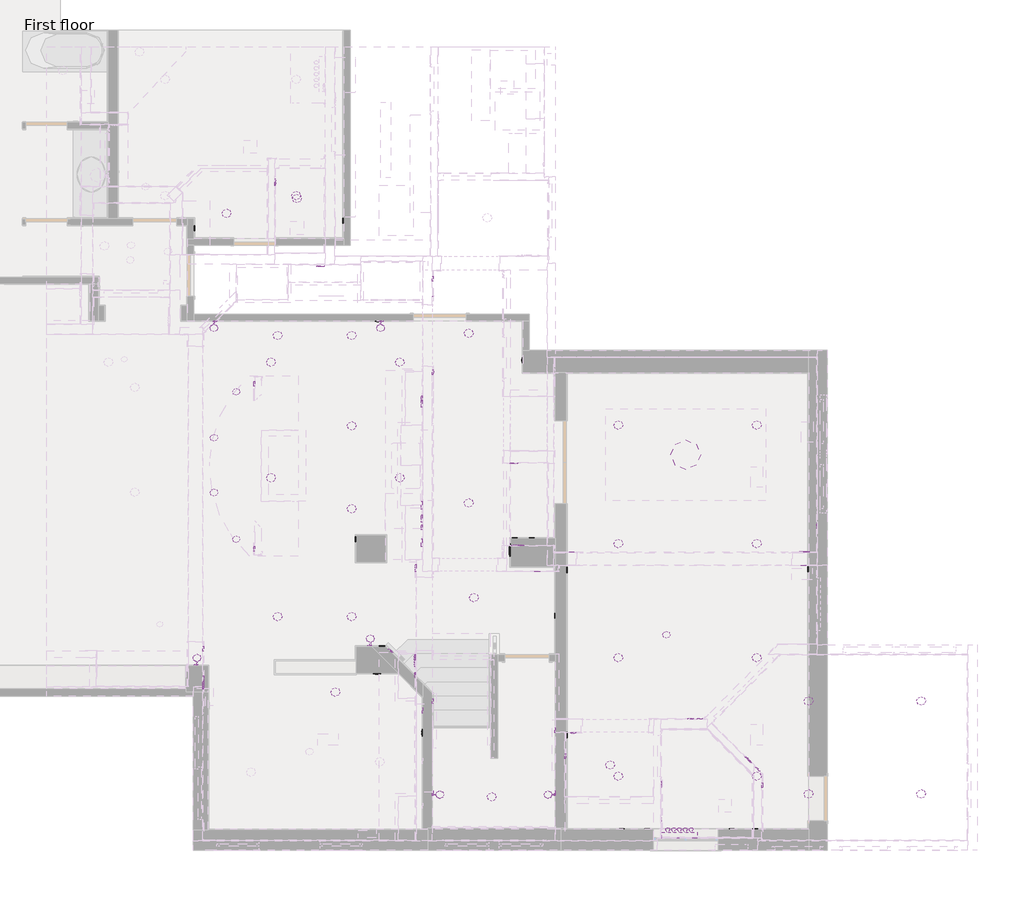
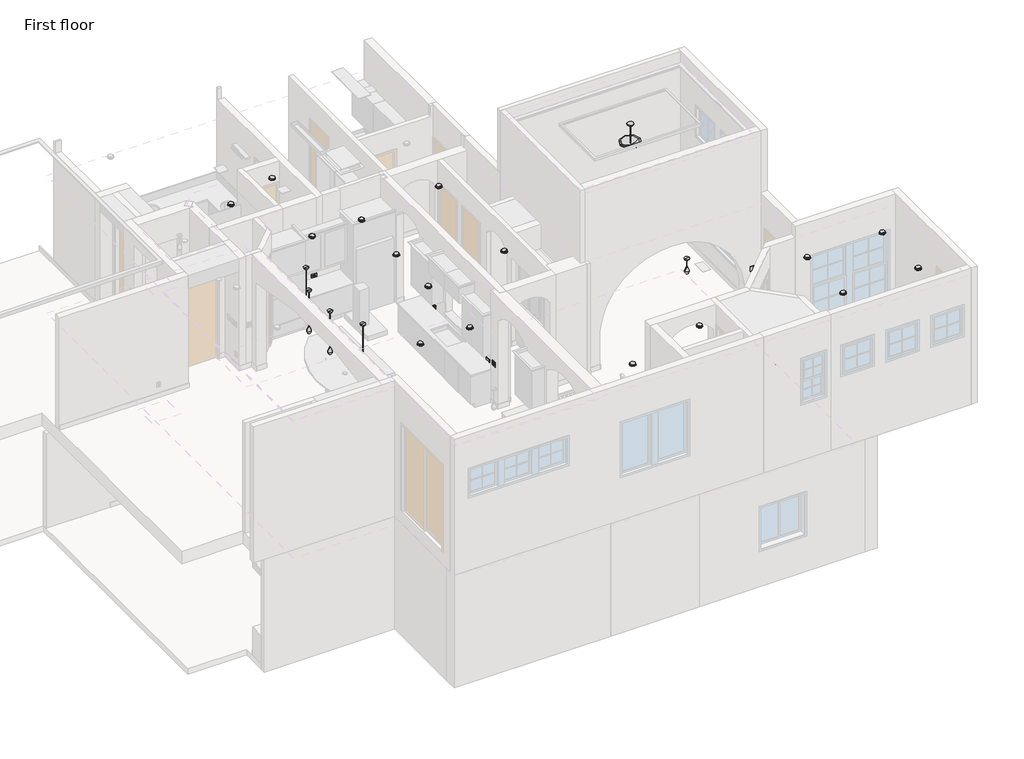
# One storey, part 13 of 14: 66 proxies, 44 light fixtures.
"""IFC4 building model written with IfcOpenShell, lengths in millimetres."""

from ifc_helpers import new_model, si_unit, origin, place, context, project, spatial, transform, mapped, element, save
from components import switch_1_switch_1_61bf59a5, switch_1_switch_1_a93bcbcb, switch_15_switch_15_8019c705, switch_15_switch_15_03a114fa, switch_18_switch_18_b948fae5, switch_18_switch_18_ac0df519, switch_22_switch_22_d8a24c8f, switch_3_switch_3_40792009, switch_4_switch_4_f86bb9e3, switch_6_switch_6_ad3d04ee, light_11_b50595c3, light_11_2a75b1a4, light_8_5fd1197a, lighting_fixtures_pendant_1_light_4_38b3ee5c, lighting_fixtures_pendant_lamp_art_glass_led_light_7_c276613a, lighting_fixtures_pendant_lamp_art_glass_led_light_9_3a7919a2, m_recessed_lamp_round_led_light_2_4ee42974

model = new_model("IFC4")

# Units and contexts
model_context = context("Model", 3, world=origin())
ifc_project = project(units=[si_unit("LENGTHUNIT", "METRE", prefix="MILLI")], contexts=[model_context])

# Site, building, storey
site = spatial("IfcSite", under=ifc_project)
building = spatial("IfcBuilding", under=site)
storey = spatial("IfcBuildingStorey", under=building, Name="First floor", Elevation=0.0)

# Proxies
placement = place(None, origin())
switch_1_switch_1_shape = switch_1_switch_1_61bf59a5(model_context)
element("IfcBuildingElementProxy", 1, Name="Switch 1 : Switch 1", ObjectType="Switch 1 : Switch 1", at=placement, inside=storey, context=model_context, shape_type="MappedRepresentation", body=[
    mapped(switch_1_switch_1_shape, transform((10553.7, 4815.087, 292.1), x_axis=(0.0, 1.0, 0.0), y_axis=(-1.0, 0.0, 0.0), z_axis=(0.0, 0.0, 1.0))),
])
element("IfcBuildingElementProxy", 2, Name="Switch 1 : Switch 1", ObjectType="Switch 1 : Switch 1", at=placement, inside=storey, context=model_context, shape_type="MappedRepresentation", body=[
    mapped(switch_1_switch_1_shape, transform((9228.337, 355.6, 292.1), x_axis=(1.0, 0.0, 0.0), y_axis=(0.0, 1.0, 0.0), z_axis=(0.0, 0.0, 1.0))),
])
element("IfcBuildingElementProxy", 3, Name="Switch 1 : Switch 1", ObjectType="Switch 1 : Switch 1", at=placement, inside=storey, context=model_context, shape_type="MappedRepresentation", body=[
    mapped(switch_1_switch_1_shape, transform((7786.887, 355.6, 292.1), x_axis=(1.0, 0.0, 0.0), y_axis=(0.0, 1.0, 0.0), z_axis=(0.0, 0.0, 1.0))),
])
element("IfcBuildingElementProxy", 4, Name="Switch 1 : Switch 1", ObjectType="Switch 1 : Switch 1", at=placement, inside=storey, context=model_context, shape_type="MappedRepresentation", body=[
    mapped(switch_1_switch_1_shape, transform((6400.8, 4811.513, 1079.5), x_axis=(0.0, -1.0, 0.0), y_axis=(1.0, 0.0, 0.0), z_axis=(0.0, 0.0, 1.0))),
])
element("IfcBuildingElementProxy", 5, Name="Switch 1 : Switch 1", ObjectType="Switch 1 : Switch 1", at=placement, inside=storey, context=model_context, shape_type="MappedRepresentation", body=[
    mapped(switch_1_switch_1_shape, transform((4102.1, 9802.5077939, 3556.0), x_axis=(0.0, -1.0, 0.0), y_axis=(1.0, 0.0, 0.0), z_axis=(0.0, 0.0, 1.0))),
])
element("IfcBuildingElementProxy", 6, Name="Switch 1 : Switch 1", ObjectType="Switch 1 : Switch 1", at=placement, inside=storey, context=model_context, shape_type="MappedRepresentation", body=[
    mapped(switch_1_switch_1_shape, transform((12.7, 10672.563, 228.6), x_axis=(0.0, -1.0, 0.0), y_axis=(1.0, 0.0, 0.0), z_axis=(0.0, 0.0, 1.0))),
])
element("IfcBuildingElementProxy", 7, Name="Switch 1 : Switch 1", ObjectType="Switch 1 : Switch 1", at=placement, inside=storey, context=model_context, shape_type="MappedRepresentation", body=[
    mapped(switch_1_switch_1_shape, transform((2215.826341, 3035.3176057, 292.1), x_axis=(-1.0, 0.0, 0.0), y_axis=(0.0, -1.0, 0.0), z_axis=(0.0, 0.0, 1.0))),
])
element("IfcBuildingElementProxy", 8, Name="Switch 1 : Switch 1", ObjectType="Switch 1 : Switch 1", at=placement, inside=storey, context=model_context, shape_type="MappedRepresentation", body=[
    mapped(switch_1_switch_1_shape, transform((3936.9996704, 2390.8506704, 1384.3), x_axis=(0.0, 1.0, 0.0), y_axis=(-1.0, 0.0, 0.0), z_axis=(0.0, 0.0, 1.0))),
])
element("IfcBuildingElementProxy", 9, Name="Switch 1 : Switch 1", ObjectType="Switch 1 : Switch 1", at=placement, inside=storey, context=model_context, shape_type="MappedRepresentation", body=[
    mapped(switch_1_switch_1_shape, transform((4102.0996704, 2557.2633296, 1219.2), x_axis=(0.0, -1.0, 0.0), y_axis=(1.0, 0.0, 0.0), z_axis=(0.0, 0.0, 1.0))),
])
element("IfcBuildingElementProxy", 10, Name="Switch 1 : Switch 1", ObjectType="Switch 1 : Switch 1", at=placement, inside=storey, context=model_context, shape_type="MappedRepresentation", body=[
    mapped(switch_1_switch_1_shape, transform((4102.0996704, 982.463, 1879.6), x_axis=(0.0, -1.0, 0.0), y_axis=(1.0, 0.0, 0.0), z_axis=(0.0, 0.0, 1.0))),
])
element("IfcBuildingElementProxy", 11, Name="Switch 1 : Switch 1", ObjectType="Switch 1 : Switch 1", at=placement, inside=storey, context=model_context, shape_type="MappedRepresentation", body=[
    mapped(switch_1_switch_1_shape, transform((6210.3, 973.337, 1879.6), x_axis=(0.0, 1.0, 0.0), y_axis=(-1.0, 0.0, 0.0), z_axis=(0.0, 0.0, 1.0))),
])
element("IfcBuildingElementProxy", 12, Name="Switch 1 : Switch 1", ObjectType="Switch 1 : Switch 1", at=placement, inside=storey, context=model_context, shape_type="MappedRepresentation", body=[
    mapped(switch_1_switch_1_shape, transform((6210.3, 2052.837, 2501.9), x_axis=(0.0, 1.0, 0.0), y_axis=(-1.0, 0.0, 0.0), z_axis=(0.0, 0.0, 1.0))),
])
element("IfcBuildingElementProxy", 13, Name="Switch 1 : Switch 1", ObjectType="Switch 1 : Switch 1", at=placement, inside=storey, context=model_context, shape_type="MappedRepresentation", body=[
    mapped(switch_1_switch_1_shape, transform((10475.713, 4889.5001027, 4559.3), x_axis=(-1.0, 0.0, 0.0), y_axis=(0.0, -1.0, 0.0), z_axis=(0.0, 0.0, 1.0))),
])
element("IfcBuildingElementProxy", 14, Name="Switch 1 : Switch 1", ObjectType="Switch 1 : Switch 1", at=placement, inside=storey, context=model_context, shape_type="MappedRepresentation", body=[
    mapped(switch_1_switch_1_shape, transform((8682.0728755, 2247.9, 3543.3), x_axis=(1.0, 0.0, 0.0), y_axis=(0.0, 1.0, 0.0), z_axis=(0.0, 0.0, 1.0))),
])
element("IfcBuildingElementProxy", 15, Name="Switch 1 : Switch 1", ObjectType="Switch 1 : Switch 1", at=placement, inside=storey, context=model_context, shape_type="MappedRepresentation", body=[
    mapped(switch_1_switch_1_shape, transform((9674.0412947, 1387.6587053, 4330.7), x_axis=(0.7071067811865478, -0.7071067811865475, 0.0), y_axis=(0.7071067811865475, 0.7071067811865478, 0.0), z_axis=(0.0, 0.0, 1.0))),
])
element("IfcBuildingElementProxy", 16, Name="Switch 1 : Switch 1", ObjectType="Switch 1 : Switch 1", at=placement, inside=storey, context=model_context, shape_type="MappedRepresentation", body=[
    mapped(switch_1_switch_1_shape, transform((9494.4361723, 1567.2638277, 4686.3), x_axis=(0.707106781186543, -0.707106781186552, 0.0), y_axis=(0.707106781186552, 0.707106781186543, 0.0), z_axis=(0.0, 0.0, 1.0))),
])
element("IfcBuildingElementProxy", 17, Name="Switch 1 : Switch 1", ObjectType="Switch 1 : Switch 1", at=placement, inside=storey, context=model_context, shape_type="MappedRepresentation", body=[
    mapped(switch_1_switch_1_shape, transform((165.1, 3458.963, 3543.3), x_axis=(0.0, -1.0, 0.0), y_axis=(1.0, 0.0, 0.0), z_axis=(0.0, 0.0, 1.0))),
])
element("IfcBuildingElementProxy", 18, Name="Switch 1 : Switch 1", ObjectType="Switch 1 : Switch 1", at=placement, inside=storey, context=model_context, shape_type="MappedRepresentation", body=[
    mapped(switch_1_switch_1_shape, transform((165.1, 3458.963, 4508.5), x_axis=(0.0, -1.0, 0.0), y_axis=(1.0, 0.0, 0.0), z_axis=(0.0, 0.0, 1.0))),
])
element("IfcBuildingElementProxy", 19, Name="Switch 1 : Switch 1", ObjectType="Switch 1 : Switch 1", at=placement, inside=storey, context=model_context, shape_type="MappedRepresentation", body=[
    mapped(switch_1_switch_1_shape, transform((165.1, 2811.263, 4508.5), x_axis=(0.0, -1.0, 0.0), y_axis=(1.0, 0.0, 0.0), z_axis=(0.0, 0.0, 1.0))),
])
switch_1_switch_1_2_shape = switch_1_switch_1_a93bcbcb(model_context)
element("IfcBuildingElementProxy", 20, Name="Switch 1 : Switch 1", ObjectType="Switch 1 : Switch 1", at=placement, inside=storey, context=model_context, shape_type="MappedRepresentation", body=[
    mapped(switch_1_switch_1_2_shape, transform((3924.3, 5240.4317939, 4165.6), x_axis=(0.0, 1.0, 0.0), y_axis=(-1.0, 0.0, 0.0), z_axis=(0.0, 0.0, 1.0))),
])
element("IfcBuildingElementProxy", 21, Name="Switch 1 : Switch 1", ObjectType="Switch 1 : Switch 1", at=placement, inside=storey, context=model_context, shape_type="MappedRepresentation", body=[
    mapped(switch_1_switch_1_2_shape, transform((3924.3, 5888.1317939, 4165.6), x_axis=(0.0, 1.0, 0.0), y_axis=(-1.0, 0.0, 0.0), z_axis=(0.0, 0.0, 1.0))),
])
switch_15_switch_15_shape = switch_15_switch_15_8019c705(model_context)
element("IfcBuildingElementProxy", 22, Name="Switch 15 : Switch 15", ObjectType="Switch 15 : Switch 15", at=placement, inside=storey, context=model_context, shape_type="MappedRepresentation", body=[
    mapped(switch_15_switch_15_shape, transform((1511.409341, 3035.3, 927.1), x_axis=(-1.0, 0.0, 0.0), y_axis=(0.0, -1.0, 0.0), z_axis=(0.0, 0.0, 1.0))),
])
element("IfcBuildingElementProxy", 23, Name="Switch 15 : Switch 15", ObjectType="Switch 15 : Switch 15", at=placement, inside=storey, context=model_context, shape_type="MappedRepresentation", body=[
    mapped(switch_15_switch_15_shape, transform((3149.6848037, 3035.2955477, 939.8), x_axis=(-1.0, 0.0, 0.0), y_axis=(0.0, -1.0, 0.0), z_axis=(0.0, 0.0, 1.0))),
])
element("IfcBuildingElementProxy", 24, Name="Switch 15 : Switch 15", ObjectType="Switch 15 : Switch 15", at=placement, inside=storey, context=model_context, shape_type="MappedRepresentation", body=[
    mapped(switch_15_switch_15_shape, transform((3936.9996704, 2015.7676704, 939.8), x_axis=(0.0, 1.0, 0.0), y_axis=(-1.0, 0.0, 0.0), z_axis=(0.0, 0.0, 1.0))),
])
element("IfcBuildingElementProxy", 25, Name="Switch 15 : Switch 15", ObjectType="Switch 15 : Switch 15", at=placement, inside=storey, context=model_context, shape_type="MappedRepresentation", body=[
    mapped(switch_15_switch_15_shape, transform((3924.3, 5690.8487939, 4165.6), x_axis=(0.0, 1.0, 0.0), y_axis=(-1.0, 0.0, 0.0), z_axis=(0.0, 0.0, 1.0))),
])
element("IfcBuildingElementProxy", 26, Name="Switch 15 : Switch 15", ObjectType="Switch 15 : Switch 15", at=placement, inside=storey, context=model_context, shape_type="MappedRepresentation", body=[
    mapped(switch_15_switch_15_shape, transform((5497.7459991, 6641.9947939, 4141.011555), x_axis=(-1.0, 0.0, 0.0), y_axis=(0.0, -1.0, 0.0), z_axis=(0.0, 0.0, 1.0))),
])
element("IfcBuildingElementProxy", 27, Name="Switch 15 : Switch 15", ObjectType="Switch 15 : Switch 15", at=placement, inside=storey, context=model_context, shape_type="MappedRepresentation", body=[
    mapped(switch_15_switch_15_shape, transform((2183.046, 10020.3, 4178.3), x_axis=(-1.0, 0.0, 0.0), y_axis=(0.0, -1.0, 0.0), z_axis=(0.0, 0.0, 1.0))),
])
switch_15_switch_15_2_shape = switch_15_switch_15_03a114fa(model_context)
element("IfcBuildingElementProxy", 28, Name="Switch 15 : Switch 15", ObjectType="Switch 15 : Switch 15", at=placement, inside=storey, context=model_context, shape_type="MappedRepresentation", body=[
    mapped(switch_15_switch_15_2_shape, transform((3924.3, 7656.6407939, 4165.6), x_axis=(0.0, -1.0, 0.0), y_axis=(1.0, 0.0, 0.0), z_axis=(0.0, 0.0, 1.0))),
])
switch_18_switch_18_shape = switch_18_switch_18_b948fae5(model_context)
element("IfcBuildingElementProxy", 29, Name="Switch 18 : Switch 18", ObjectType="Switch 18 : Switch 18", at=placement, inside=storey, context=model_context, shape_type="MappedRepresentation", body=[
    mapped(switch_18_switch_18_shape, transform((3810.0, 3013.2977736, 4330.7), x_axis=(0.0, 1.0, 0.0), y_axis=(-1.0, 0.0, 0.0), z_axis=(0.0, 0.0, 1.0))),
])
element("IfcBuildingElementProxy", 30, Name="Switch 18 : Switch 18", ObjectType="Switch 18 : Switch 18", at=placement, inside=storey, context=model_context, shape_type="MappedRepresentation", body=[
    mapped(switch_18_switch_18_shape, transform((3924.3, 5540.5977736, 4330.7), x_axis=(0.0, 1.0, 0.0), y_axis=(-1.0, 0.0, 0.0), z_axis=(0.0, 0.0, 1.0))),
])
switch_18_switch_18_2_shape = switch_18_switch_18_ac0df519(model_context)
element("IfcBuildingElementProxy", 31, Name="Switch 18 : Switch 18", ObjectType="Switch 18 : Switch 18", at=placement, inside=storey, context=model_context, shape_type="MappedRepresentation", body=[
    mapped(switch_18_switch_18_2_shape, transform((3924.3, 7743.3918142, 4330.7), x_axis=(0.0, -1.0, 0.0), y_axis=(1.0, 0.0, 0.0), z_axis=(0.0, 0.0, 1.0))),
])
switch_22_switch_22_shape = switch_22_switch_22_d8a24c8f(model_context)
element("IfcBuildingElementProxy", 32, Name="Switch 22 : Switch 22", ObjectType="Switch 22 : Switch 22", at=placement, inside=storey, context=model_context, shape_type="MappedRepresentation", body=[
    mapped(switch_22_switch_22_shape, transform((5441.95, 5132.632358, 1054.1), x_axis=(0.0, 1.0, 0.0), y_axis=(-1.0, 0.0, 0.0), z_axis=(0.0, 0.0, 1.0))),
])
element("IfcBuildingElementProxy", 33, Name="Switch 22 : Switch 22", ObjectType="Switch 22 : Switch 22", at=placement, inside=storey, context=model_context, shape_type="MappedRepresentation", body=[
    mapped(switch_22_switch_22_shape, transform((10453.932358, 5105.4001027, 4305.3), x_axis=(1.0, 0.0, 0.0), y_axis=(0.0, 1.0, 0.0), z_axis=(0.0, 0.0, 1.0))),
])
element("IfcBuildingElementProxy", 34, Name="Switch 22 : Switch 22", ObjectType="Switch 22 : Switch 22", at=placement, inside=storey, context=model_context, shape_type="MappedRepresentation", body=[
    mapped(switch_22_switch_22_shape, transform((5551.732357, 5219.5947939, 4254.5), x_axis=(1.0, 0.0, 0.0), y_axis=(0.0, 1.0, 0.0), z_axis=(0.0, 0.0, 1.0))),
])
element("IfcBuildingElementProxy", 35, Name="Switch 22 : Switch 22", ObjectType="Switch 22 : Switch 22", at=placement, inside=storey, context=model_context, shape_type="MappedRepresentation", body=[
    mapped(switch_22_switch_22_shape, transform((3810.0, 3240.2271518, 4330.7), x_axis=(0.0, 1.0, 0.0), y_axis=(-1.0, 0.0, 0.0), z_axis=(0.0, 0.0, 1.0))),
])
element("IfcBuildingElementProxy", 36, Name="Switch 22 : Switch 22", ObjectType="Switch 22 : Switch 22", at=placement, inside=storey, context=model_context, shape_type="MappedRepresentation", body=[
    mapped(switch_22_switch_22_shape, transform((165.1, 2900.117642, 4241.8), x_axis=(0.0, -1.0, 0.0), y_axis=(1.0, 0.0, 0.0), z_axis=(0.0, 0.0, 1.0))),
])
switch_3_switch_3_shape = switch_3_switch_3_40792009(model_context)
element("IfcBuildingElementProxy", 37, Name="Switch 3 : Switch 3", ObjectType="Switch 3 : Switch 3", at=placement, inside=storey, context=model_context, shape_type="MappedRepresentation", body=[
    mapped(switch_3_switch_3_shape, transform((3381.0797593, 3413.4202407, 1320.8), x_axis=(0.7071067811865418, -0.7071067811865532, 0.0), y_axis=(0.7071067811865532, 0.7071067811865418, 0.0), z_axis=(0.0, 0.0, 1.0))),
])
element("IfcBuildingElementProxy", 38, Name="Switch 3 : Switch 3", ObjectType="Switch 3 : Switch 3", at=placement, inside=storey, context=model_context, shape_type="MappedRepresentation", body=[
    mapped(switch_3_switch_3_shape, transform((6511.2228308, 2019.3, 4356.1), x_axis=(-1.0, 0.0, 0.0), y_axis=(0.0, -1.0, 0.0), z_axis=(0.0, 0.0, 1.0))),
])
element("IfcBuildingElementProxy", 39, Name="Switch 3 : Switch 3", ObjectType="Switch 3 : Switch 3", at=placement, inside=storey, context=model_context, shape_type="MappedRepresentation", body=[
    mapped(switch_3_switch_3_shape, transform((4102.1, 8193.8676247, 4318.0), x_axis=(0.0, -1.0, 0.0), y_axis=(1.0, 0.0, 0.0), z_axis=(0.0, 0.0, 1.0))),
])
switch_4_switch_4_shape = switch_4_switch_4_f86bb9e3(model_context)
element("IfcBuildingElementProxy", 40, Name="Switch 4 : Switch 4", ObjectType="Switch 4 : Switch 4", at=placement, inside=storey, context=model_context, shape_type="MappedRepresentation", body=[
    mapped(switch_4_switch_4_shape, transform((9642.8029797, 355.6, 292.1006729), x_axis=(1.0, 0.0, 0.0), y_axis=(0.0, 1.0, 0.0), z_axis=(0.0, 0.0, 1.0))),
])
element("IfcBuildingElementProxy", 41, Name="Switch 4 : Switch 4", ObjectType="Switch 4 : Switch 4", at=placement, inside=storey, context=model_context, shape_type="MappedRepresentation", body=[
    mapped(switch_4_switch_4_shape, transform((7350.4529797, 355.6, 292.1006729), x_axis=(1.0, 0.0, 0.0), y_axis=(0.0, 1.0, 0.0), z_axis=(0.0, 0.0, 1.0))),
])
element("IfcBuildingElementProxy", 42, Name="Switch 4 : Switch 4", ObjectType="Switch 4 : Switch 4", at=placement, inside=storey, context=model_context, shape_type="MappedRepresentation", body=[
    mapped(switch_4_switch_4_shape, transform((6400.8, 1971.3470203, 292.1006729), x_axis=(0.0, -1.0, 0.0), y_axis=(1.0, 0.0, 0.0), z_axis=(0.0, 0.0, 1.0))),
])
element("IfcBuildingElementProxy", 43, Name="Switch 4 : Switch 4", ObjectType="Switch 4 : Switch 4", at=placement, inside=storey, context=model_context, shape_type="MappedRepresentation", body=[
    mapped(switch_4_switch_4_shape, transform((5651.5, 8404.5529797, 292.1006729), x_axis=(0.0, 1.0, 0.0), y_axis=(-1.0, 0.0, 0.0), z_axis=(0.0, 0.0, 1.0))),
])
element("IfcBuildingElementProxy", 44, Name="Switch 4 : Switch 4", ObjectType="Switch 4 : Switch 4", at=placement, inside=storey, context=model_context, shape_type="MappedRepresentation", body=[
    mapped(switch_4_switch_4_shape, transform((5807.4029797, 5346.7, 292.1006729), x_axis=(1.0, 0.0, 0.0), y_axis=(0.0, 1.0, 0.0), z_axis=(0.0, 0.0, 1.0))),
])
element("IfcBuildingElementProxy", 45, Name="Switch 4 : Switch 4", ObjectType="Switch 4 : Switch 4", at=placement, inside=storey, context=model_context, shape_type="MappedRepresentation", body=[
    mapped(switch_4_switch_4_shape, transform((5515.3029797, 5346.7, 292.1006729), x_axis=(1.0, 0.0, 0.0), y_axis=(0.0, 1.0, 0.0), z_axis=(0.0, 0.0, 1.0))),
])
element("IfcBuildingElementProxy", 46, Name="Switch 4 : Switch 4", ObjectType="Switch 4 : Switch 4", at=placement, inside=storey, context=model_context, shape_type="MappedRepresentation", body=[
    mapped(switch_4_switch_4_shape, transform((6210.3, 4023.0529797, 292.1006729), x_axis=(0.0, 1.0, 0.0), y_axis=(-1.0, 0.0, 0.0), z_axis=(0.0, 0.0, 1.0))),
])
element("IfcBuildingElementProxy", 47, Name="Switch 4 : Switch 4", ObjectType="Switch 4 : Switch 4", at=placement, inside=storey, context=model_context, shape_type="MappedRepresentation", body=[
    mapped(switch_4_switch_4_shape, transform((3158.7970203, 9080.5, 292.1006729), x_axis=(-1.0, 0.0, 0.0), y_axis=(0.0, -1.0, 0.0), z_axis=(0.0, 0.0, 1.0))),
])
element("IfcBuildingElementProxy", 48, Name="Switch 4 : Switch 4", ObjectType="Switch 4 : Switch 4", at=placement, inside=storey, context=model_context, shape_type="MappedRepresentation", body=[
    mapped(switch_4_switch_4_shape, transform((2794.0, 5337.5029797, 292.1006729), x_axis=(0.0, 1.0, 0.0), y_axis=(-1.0, 0.0, 0.0), z_axis=(0.0, 0.0, 1.0))),
])
element("IfcBuildingElementProxy", 49, Name="Switch 4 : Switch 4", ObjectType="Switch 4 : Switch 4", at=placement, inside=storey, context=model_context, shape_type="MappedRepresentation", body=[
    mapped(switch_4_switch_4_shape, transform((2151.2493205, 3238.5176057, 292.1006729), x_axis=(1.0, 0.0, 0.0), y_axis=(0.0, 1.0, 0.0), z_axis=(0.0, 0.0, 1.0))),
])
element("IfcBuildingElementProxy", 50, Name="Switch 4 : Switch 4", ObjectType="Switch 4 : Switch 4", at=placement, inside=storey, context=model_context, shape_type="MappedRepresentation", body=[
    mapped(switch_4_switch_4_shape, transform((4102.1, 9451.5418142, 3556.0), x_axis=(0.0, -1.0, 0.0), y_axis=(1.0, 0.0, 0.0), z_axis=(0.0, 0.0, 1.0))),
])
element("IfcBuildingElementProxy", 51, Name="Switch 4 : Switch 4", ObjectType="Switch 4 : Switch 4", at=placement, inside=storey, context=model_context, shape_type="MappedRepresentation", body=[
    mapped(switch_4_switch_4_shape, transform((2578.1, 10798.5029797, 292.1), x_axis=(0.0, 1.0, 0.0), y_axis=(-1.0, 0.0, 0.0), z_axis=(0.0, 0.0, 1.0))),
])
element("IfcBuildingElementProxy", 52, Name="Switch 4 : Switch 4", ObjectType="Switch 4 : Switch 4", at=placement, inside=storey, context=model_context, shape_type="MappedRepresentation", body=[
    mapped(switch_4_switch_4_shape, transform((3242.0089894, 3492.4962564, 292.1), x_axis=(1.0, 0.0, 0.0), y_axis=(0.0, 1.0, 0.0), z_axis=(0.0, 0.0, 1.0))),
])
element("IfcBuildingElementProxy", 53, Name="Switch 4 : Switch 4", ObjectType="Switch 4 : Switch 4", at=placement, inside=storey, context=model_context, shape_type="MappedRepresentation", body=[
    mapped(switch_4_switch_4_shape, transform((10706.1, 5566.1030824, 3556.0), x_axis=(0.0, 1.0, 0.0), y_axis=(-1.0, 0.0, 0.0), z_axis=(0.0, 0.0, 1.0))),
])
element("IfcBuildingElementProxy", 54, Name="Switch 4 : Switch 4", ObjectType="Switch 4 : Switch 4", at=placement, inside=storey, context=model_context, shape_type="MappedRepresentation", body=[
    mapped(switch_4_switch_4_shape, transform((6486.8529788, 5105.4001027, 3543.3006729), x_axis=(1.0, 0.0, 0.0), y_axis=(0.0, 1.0, 0.0), z_axis=(0.0, 0.0, 1.0))),
])
element("IfcBuildingElementProxy", 55, Name="Switch 4 : Switch 4", ObjectType="Switch 4 : Switch 4", at=placement, inside=storey, context=model_context, shape_type="MappedRepresentation", body=[
    mapped(switch_4_switch_4_shape, transform((8531.316595, 2247.9, 3543.3), x_axis=(1.0, 0.0, 0.0), y_axis=(0.0, 1.0, 0.0), z_axis=(0.0, 0.0, 1.0))),
])
element("IfcBuildingElementProxy", 56, Name="Switch 4 : Switch 4", ObjectType="Switch 4 : Switch 4", at=placement, inside=storey, context=model_context, shape_type="MappedRepresentation", body=[
    mapped(switch_4_switch_4_shape, transform((5901.9970194, 4787.7947939, 3556.0), x_axis=(-1.0, 0.0, 0.0), y_axis=(0.0, -1.0, 0.0), z_axis=(0.0, 0.0, 1.0))),
])
element("IfcBuildingElementProxy", 57, Name="Switch 4 : Switch 4", ObjectType="Switch 4 : Switch 4", at=placement, inside=storey, context=model_context, shape_type="MappedRepresentation", body=[
    mapped(switch_4_switch_4_shape, transform((9753.6, 1109.8758919, 3543.3006729), x_axis=(0.0, -1.0, 0.0), y_axis=(1.0, 0.0, 0.0), z_axis=(0.0, 0.0, 1.0))),
])
element("IfcBuildingElementProxy", 58, Name="Switch 4 : Switch 4", ObjectType="Switch 4 : Switch 4", at=placement, inside=storey, context=model_context, shape_type="MappedRepresentation", body=[
    mapped(switch_4_switch_4_shape, transform((6375.4, 1609.3970203, 3543.3), x_axis=(0.0, -1.0, 0.0), y_axis=(1.0, 0.0, 0.0), z_axis=(0.0, 0.0, 1.0))),
])
element("IfcBuildingElementProxy", 59, Name="Switch 4 : Switch 4", ObjectType="Switch 4 : Switch 4", at=placement, inside=storey, context=model_context, shape_type="MappedRepresentation", body=[
    mapped(switch_4_switch_4_shape, transform((8013.7, 510.8470203, 4368.8006729), x_axis=(0.0, -1.0, 0.0), y_axis=(1.0, 0.0, 0.0), z_axis=(0.0, 0.0, 1.0))),
])
element("IfcBuildingElementProxy", 60, Name="Switch 4 : Switch 4", ObjectType="Switch 4 : Switch 4", at=placement, inside=storey, context=model_context, shape_type="MappedRepresentation", body=[
    mapped(switch_4_switch_4_shape, transform((165.1, 2847.6470203, 3543.3), x_axis=(0.0, -1.0, 0.0), y_axis=(1.0, 0.0, 0.0), z_axis=(0.0, 0.0, 1.0))),
])
element("IfcBuildingElementProxy", 61, Name="Switch 4 : Switch 4", ObjectType="Switch 4 : Switch 4", at=placement, inside=storey, context=model_context, shape_type="MappedRepresentation", body=[
    mapped(switch_4_switch_4_shape, transform((1054.1, 8004.5029797, 3898.9), x_axis=(0.0, 1.0, 0.0), y_axis=(-1.0, 0.0, 0.0), z_axis=(0.0, 0.0, 1.0))),
])
element("IfcBuildingElementProxy", 62, Name="Switch 4 : Switch 4", ObjectType="Switch 4 : Switch 4", at=placement, inside=storey, context=model_context, shape_type="MappedRepresentation", body=[
    mapped(switch_4_switch_4_shape, transform((1054.1, 5172.4029797, 3898.9), x_axis=(0.0, 1.0, 0.0), y_axis=(-1.0, 0.0, 0.0), z_axis=(0.0, 0.0, 1.0))),
])
switch_6_switch_6_shape = switch_6_switch_6_ad3d04ee(model_context)
element("IfcBuildingElementProxy", 63, Name="Switch 6 : Switch 6", ObjectType="Switch 6 : Switch 6", at=placement, inside=storey, context=model_context, shape_type="MappedRepresentation", body=[
    mapped(switch_6_switch_6_shape, transform((9521.1603892, 1540.5396108, 4330.7), x_axis=(0.707106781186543, -0.707106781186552, 0.0), y_axis=(0.707106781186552, 0.707106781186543, 0.0), z_axis=(0.0, 0.0, 1.0))),
])
element("IfcBuildingElementProxy", 64, Name="Switch 6 : Switch 6", ObjectType="Switch 6 : Switch 6", at=placement, inside=storey, context=model_context, shape_type="MappedRepresentation", body=[
    mapped(switch_6_switch_6_shape, transform((8013.7, 1116.1192501, 4368.8006729), x_axis=(0.0, -1.0, 0.0), y_axis=(1.0, 0.0, 0.0), z_axis=(0.0, 0.0, 1.0))),
])
element("IfcBuildingElementProxy", 65, Name="Switch 6 : Switch 6", ObjectType="Switch 6 : Switch 6", at=placement, inside=storey, context=model_context, shape_type="MappedRepresentation", body=[
    mapped(switch_6_switch_6_shape, transform((1397.0, 11453.8140439, 4305.3), x_axis=(0.0, -1.0, 0.0), y_axis=(1.0, 0.0, 0.0), z_axis=(0.0, 0.0, 1.0))),
])
element("IfcBuildingElementProxy", 66, Name="Switch 6 : Switch 6", ObjectType="Switch 6 : Switch 6", at=placement, inside=storey, context=model_context, shape_type="MappedRepresentation", body=[
    mapped(switch_6_switch_6_shape, transform((3822.7, 4840.0755438, 4330.7), x_axis=(0.0, 1.0, 0.0), y_axis=(-1.0, 0.0, 0.0), z_axis=(0.0, 0.0, 1.0))),
])

# Light fixtures
light_11_shape = light_11_b50595c3(model_context)
element("IfcLightFixture", 67, ObjectType="PIPES T L : Light 11", at=placement, inside=storey, context=model_context, shape_type="MappedRepresentation", body=[
    mapped(light_11_shape, transform((355.6747958, 9080.5, 1727.2), x_axis=(0.0, 0.0, -1.0), y_axis=(1.0, 0.0, 0.0), z_axis=(0.0, -1.0, 0.0))),
])
element("IfcLightFixture", 68, ObjectType="PIPES T L : Light 11", at=placement, inside=storey, context=model_context, shape_type="MappedRepresentation", body=[
    mapped(light_11_shape, transform((3213.1, 9080.5, 1727.2), x_axis=(0.0, 0.0, -1.0), y_axis=(1.0, 0.0, 0.0), z_axis=(0.0, -1.0, 0.0))),
])
element("IfcLightFixture", 69, ObjectType="PIPES T L : Light 11", at=placement, inside=storey, context=model_context, shape_type="MappedRepresentation", body=[
    mapped(light_11_shape, transform((63.5, 3172.8833333, 1727.2), x_axis=(0.0, 0.0, -1.0), y_axis=(-1.0, 0.0, 0.0), z_axis=(0.0, 1.0, 0.0))),
])
element("IfcLightFixture", 70, ObjectType="PIPES T L : Light 11", at=placement, inside=storey, context=model_context, shape_type="MappedRepresentation", body=[
    mapped(light_11_shape, transform((3036.7414693, 3503.0833333, 1727.2), x_axis=(0.0, 0.0, -1.0), y_axis=(-1.0, 0.0, 0.0), z_axis=(0.0, 1.0, 0.0))),
])
light_11_2_shape = light_11_2a75b1a4(model_context)
element("IfcLightFixture", 71, ObjectType="PIPES T L : Light 11", at=placement, inside=storey, context=model_context, shape_type="MappedRepresentation", body=[
    mapped(light_11_2_shape, transform((6210.3, 952.5, 3962.4), x_axis=(0.0, -1.0, 0.0), y_axis=(0.0, 0.0, 1.0), z_axis=(-1.0, 0.0, 0.0))),
])
element("IfcLightFixture", 72, ObjectType="PIPES T L : Light 11", at=placement, inside=storey, context=model_context, shape_type="MappedRepresentation", body=[
    mapped(light_11_2_shape, transform((4102.1, 952.5, 3962.4), x_axis=(0.0, 1.0, 0.0), y_axis=(0.0, 0.0, 1.0), z_axis=(1.0, 0.0, 0.0))),
])
light_8_shape = light_8_5fd1197a(model_context)
element("IfcLightFixture", 73, ObjectType="Lighting_Fixtures_Sconce_Lamp_Cosmetic_LED : Light 8", at=placement, inside=storey, context=model_context, shape_type="MappedRepresentation", body=[
    mapped(light_8_shape, transform((8337.55, 203.2, 5461.0), x_axis=(1.0, 0.0, 0.0), y_axis=(0.0, 0.0, -1.0), z_axis=(0.0, 1.0, 0.0))),
])
lighting_fixtures_pendant_1_light_4_shape = lighting_fixtures_pendant_1_light_4_38b3ee5c(model_context)
element("IfcLightFixture", 74, ObjectType="Lighting_Fixtures_Pendant_1 : Light 4", at=placement, inside=storey, context=model_context, shape_type="MappedRepresentation", body=[
    mapped(lighting_fixtures_pendant_1_light_4_shape, transform((8445.5222101, 6781.8, 5689.6), x_axis=(1.0, 0.0, 0.0), y_axis=(0.0, 1.0, 0.0), z_axis=(0.0, 0.0, 1.0))),
])
lighting_fixtures_pendant_lamp_art_glass_led_light_7_shape = lighting_fixtures_pendant_lamp_art_glass_led_light_7_c276613a(model_context)
element("IfcLightFixture", 75, ObjectType="Lighting_Fixtures_Pendant_Lamp_Art Glass_LED : Light 7", at=placement, inside=storey, context=model_context, shape_type="MappedRepresentation", body=[
    mapped(lighting_fixtures_pendant_lamp_art_glass_led_light_7_shape, transform((8116.212941, 3695.7, 6451.6), x_axis=(1.0, 0.0, 0.0), y_axis=(0.0, -1.0, 0.0), z_axis=(0.0, 0.0, -1.0))),
])
lighting_fixtures_pendant_lamp_art_glass_led_light_9_shape = lighting_fixtures_pendant_lamp_art_glass_led_light_9_3a7919a2(model_context)
element("IfcLightFixture", 76, ObjectType="Lighting_Fixtures_Pendant_Lamp_Art Glass_LED : Light 9", at=placement, inside=storey, context=model_context, shape_type="MappedRepresentation", body=[
    mapped(lighting_fixtures_pendant_lamp_art_glass_led_light_9_shape, transform((737.512941, 7861.3, 6261.1), x_axis=(1.0, 0.0, 0.0), y_axis=(0.0, -1.0, 0.0), z_axis=(0.0, 0.0, -1.0))),
])
element("IfcLightFixture", 77, ObjectType="Lighting_Fixtures_Pendant_Lamp_Art Glass_LED : Light 9", at=placement, inside=storey, context=model_context, shape_type="MappedRepresentation", body=[
    mapped(lighting_fixtures_pendant_lamp_art_glass_led_light_9_shape, transform((356.512941, 7073.9, 6261.1), x_axis=(1.0, 0.0, 0.0), y_axis=(0.0, -1.0, 0.0), z_axis=(0.0, 0.0, -1.0))),
])
element("IfcLightFixture", 78, ObjectType="Lighting_Fixtures_Pendant_Lamp_Art Glass_LED : Light 9", at=placement, inside=storey, context=model_context, shape_type="MappedRepresentation", body=[
    mapped(lighting_fixtures_pendant_lamp_art_glass_led_light_9_shape, transform((356.512941, 6134.1, 6261.1), x_axis=(1.0, 0.0, 0.0), y_axis=(0.0, -1.0, 0.0), z_axis=(0.0, 0.0, -1.0))),
])
element("IfcLightFixture", 79, ObjectType="Lighting_Fixtures_Pendant_Lamp_Art Glass_LED : Light 9", at=placement, inside=storey, context=model_context, shape_type="MappedRepresentation", body=[
    mapped(lighting_fixtures_pendant_lamp_art_glass_led_light_9_shape, transform((737.512941, 5334.0, 6261.1), x_axis=(1.0, 0.0, 0.0), y_axis=(0.0, -1.0, 0.0), z_axis=(0.0, 0.0, -1.0))),
])
m_recessed_lamp_round_led_light_2_shape = m_recessed_lamp_round_led_light_2_4ee42974(model_context)
element("IfcLightFixture", 80, ObjectType="M_Recessed Lamp - Round - LED : Light 2", at=placement, inside=storey, context=model_context, shape_type="MappedRepresentation", body=[
    mapped(m_recessed_lamp_round_led_light_2_shape, transform((9664.7, 7289.8266421, 2565.4), x_axis=(1.0, 0.0, 0.0), y_axis=(0.0, -1.0, 0.0), z_axis=(0.0, 0.0, -1.0))),
])
element("IfcLightFixture", 81, ObjectType="M_Recessed Lamp - Round - LED : Light 2", at=placement, inside=storey, context=model_context, shape_type="MappedRepresentation", body=[
    mapped(m_recessed_lamp_round_led_light_2_shape, transform((9664.7, 5257.8266421, 2565.4), x_axis=(1.0, 0.0, 0.0), y_axis=(0.0, -1.0, 0.0), z_axis=(0.0, 0.0, -1.0))),
])
element("IfcLightFixture", 82, ObjectType="M_Recessed Lamp - Round - LED : Light 2", at=placement, inside=storey, context=model_context, shape_type="MappedRepresentation", body=[
    mapped(m_recessed_lamp_round_led_light_2_shape, transform((9664.7, 3302.0266421, 2565.4), x_axis=(1.0, 0.0, 0.0), y_axis=(0.0, -1.0, 0.0), z_axis=(0.0, 0.0, -1.0))),
])
element("IfcLightFixture", 83, ObjectType="M_Recessed Lamp - Round - LED : Light 2", at=placement, inside=storey, context=model_context, shape_type="MappedRepresentation", body=[
    mapped(m_recessed_lamp_round_led_light_2_shape, transform((9664.7, 1270.0266421, 2565.4), x_axis=(1.0, 0.0, 0.0), y_axis=(0.0, -1.0, 0.0), z_axis=(0.0, 0.0, -1.0))),
])
element("IfcLightFixture", 84, ObjectType="M_Recessed Lamp - Round - LED : Light 2", at=placement, inside=storey, context=model_context, shape_type="MappedRepresentation", body=[
    mapped(m_recessed_lamp_round_led_light_2_shape, transform((7289.8, 7289.8266421, 2565.4), x_axis=(1.0, 0.0, 0.0), y_axis=(0.0, -1.0, 0.0), z_axis=(0.0, 0.0, -1.0))),
])
element("IfcLightFixture", 85, ObjectType="M_Recessed Lamp - Round - LED : Light 2", at=placement, inside=storey, context=model_context, shape_type="MappedRepresentation", body=[
    mapped(m_recessed_lamp_round_led_light_2_shape, transform((7289.8, 5257.8266421, 2565.4), x_axis=(1.0, 0.0, 0.0), y_axis=(0.0, -1.0, 0.0), z_axis=(0.0, 0.0, -1.0))),
])
element("IfcLightFixture", 86, ObjectType="M_Recessed Lamp - Round - LED : Light 2", at=placement, inside=storey, context=model_context, shape_type="MappedRepresentation", body=[
    mapped(m_recessed_lamp_round_led_light_2_shape, transform((7289.8, 3302.0266421, 2565.4), x_axis=(1.0, 0.0, 0.0), y_axis=(0.0, -1.0, 0.0), z_axis=(0.0, 0.0, -1.0))),
])
element("IfcLightFixture", 87, ObjectType="M_Recessed Lamp - Round - LED : Light 2", at=placement, inside=storey, context=model_context, shape_type="MappedRepresentation", body=[
    mapped(m_recessed_lamp_round_led_light_2_shape, transform((7289.8, 1270.0266421, 2565.4), x_axis=(1.0, 0.0, 0.0), y_axis=(0.0, -1.0, 0.0), z_axis=(0.0, 0.0, -1.0))),
])
element("IfcLightFixture", 88, ObjectType="M_Recessed Lamp - Round - LED : Light 2", at=placement, inside=storey, context=model_context, shape_type="MappedRepresentation", body=[
    mapped(m_recessed_lamp_round_led_light_2_shape, transform((4813.3, 4330.7, 2565.4), x_axis=(1.0, 0.0, 0.0), y_axis=(0.0, -1.0, 0.0), z_axis=(0.0, 0.0, -1.0))),
])
element("IfcLightFixture", 89, ObjectType="M_Recessed Lamp - Round - LED : Light 2", at=placement, inside=storey, context=model_context, shape_type="MappedRepresentation", body=[
    mapped(m_recessed_lamp_round_led_light_2_shape, transform((3543.3, 6388.1, 2565.4), x_axis=(1.0, 0.0, 0.0), y_axis=(0.0, -1.0, 0.0), z_axis=(0.0, 0.0, -1.0))),
])
element("IfcLightFixture", 90, ObjectType="M_Recessed Lamp - Round - LED : Light 2", at=placement, inside=storey, context=model_context, shape_type="MappedRepresentation", body=[
    mapped(m_recessed_lamp_round_led_light_2_shape, transform((1333.5, 6388.1, 2565.4), x_axis=(1.0, 0.0, 0.0), y_axis=(0.0, -1.0, 0.0), z_axis=(0.0, 0.0, -1.0))),
])
element("IfcLightFixture", 91, ObjectType="M_Recessed Lamp - Round - LED : Light 2", at=placement, inside=storey, context=model_context, shape_type="MappedRepresentation", body=[
    mapped(m_recessed_lamp_round_led_light_2_shape, transform((3543.3, 8369.3, 2565.4), x_axis=(1.0, 0.0, 0.0), y_axis=(0.0, -1.0, 0.0), z_axis=(0.0, 0.0, -1.0))),
])
element("IfcLightFixture", 92, ObjectType="M_Recessed Lamp - Round - LED : Light 2", at=placement, inside=storey, context=model_context, shape_type="MappedRepresentation", body=[
    mapped(m_recessed_lamp_round_led_light_2_shape, transform((1333.5, 8369.3, 2565.4), x_axis=(1.0, 0.0, 0.0), y_axis=(0.0, -1.0, 0.0), z_axis=(0.0, 0.0, -1.0))),
])
element("IfcLightFixture", 93, ObjectType="M_Recessed Lamp - Round - LED : Light 2", at=placement, inside=storey, context=model_context, shape_type="MappedRepresentation", body=[
    mapped(m_recessed_lamp_round_led_light_2_shape, transform((2438.3996704, 2711.4620454, 2565.4), x_axis=(1.0, 0.0, 0.0), y_axis=(0.0, -1.0, 0.0), z_axis=(0.0, 0.0, -1.0))),
])
element("IfcLightFixture", 94, ObjectType="M_Recessed Lamp - Round - LED : Light 2", at=placement, inside=storey, context=model_context, shape_type="MappedRepresentation", body=[
    mapped(m_recessed_lamp_round_led_light_2_shape, transform((1765.3, 11226.8, 2565.4), x_axis=(1.0, 0.0, 0.0), y_axis=(0.0, -1.0, 0.0), z_axis=(0.0, 0.0, -1.0))),
])
element("IfcLightFixture", 95, ObjectType="M_Recessed Lamp - Round - LED : Light 2", at=placement, inside=storey, context=model_context, shape_type="MappedRepresentation", body=[
    mapped(m_recessed_lamp_round_led_light_2_shape, transform((7150.1, 1460.5, 6299.2), x_axis=(0.9999999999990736, -1.3611479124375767e-06, 0.0), y_axis=(-1.3611479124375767e-06, -0.9999999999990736, 0.0), z_axis=(0.0, 0.0, -1.0))),
])
element("IfcLightFixture", 96, ObjectType="M_Recessed Lamp - Round - LED : Light 2", at=placement, inside=storey, context=model_context, shape_type="MappedRepresentation", body=[
    mapped(m_recessed_lamp_round_led_light_2_shape, transform((5118.1, 914.4, 6299.2), x_axis=(0.999999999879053, 1.555294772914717e-05, 0.0), y_axis=(1.555294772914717e-05, -0.999999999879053, 0.0), z_axis=(0.0, 0.0, -1.0))),
])
element("IfcLightFixture", 97, ObjectType="M_Recessed Lamp - Round - LED : Light 2", at=placement, inside=storey, context=model_context, shape_type="MappedRepresentation", body=[
    mapped(m_recessed_lamp_round_led_light_2_shape, transform((10553.7, 965.2, 6299.2), x_axis=(0.9999999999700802, -7.735631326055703e-06, 0.0), y_axis=(-7.735631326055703e-06, -0.9999999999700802, 0.0), z_axis=(0.0, 0.0, -1.0))),
])
element("IfcLightFixture", 98, ObjectType="M_Recessed Lamp - Round - LED : Light 2", at=placement, inside=storey, context=model_context, shape_type="MappedRepresentation", body=[
    mapped(m_recessed_lamp_round_led_light_2_shape, transform((10553.7, 2559.05, 6299.2), x_axis=(-1.0, 0.0, 0.0), y_axis=(0.0, 1.0, 0.0), z_axis=(0.0, 0.0, -1.0))),
])
element("IfcLightFixture", 99, ObjectType="M_Recessed Lamp - Round - LED : Light 2", at=placement, inside=storey, context=model_context, shape_type="MappedRepresentation", body=[
    mapped(m_recessed_lamp_round_led_light_2_shape, transform((12484.1, 2559.05, 6299.2), x_axis=(-1.0, 0.0, 0.0), y_axis=(0.0, 1.0, 0.0), z_axis=(0.0, 0.0, -1.0))),
])
element("IfcLightFixture", 100, ObjectType="M_Recessed Lamp - Round - LED : Light 2", at=placement, inside=storey, context=model_context, shape_type="MappedRepresentation", body=[
    mapped(m_recessed_lamp_round_led_light_2_shape, transform((12484.1, 965.2, 6299.2), x_axis=(-1.0, 0.0, 0.0), y_axis=(0.0, 1.0, 0.0), z_axis=(0.0, 0.0, -1.0))),
])
element("IfcLightFixture", 101, ObjectType="M_Recessed Lamp - Round - LED : Light 2", at=placement, inside=storey, context=model_context, shape_type="MappedRepresentation", body=[
    mapped(m_recessed_lamp_round_led_light_2_shape, transform((4724.3951375, 5956.2135172, 6451.6), x_axis=(-0.9999999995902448, 2.8627094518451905e-05, 0.0), y_axis=(2.8627094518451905e-05, 0.9999999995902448, 0.0), z_axis=(0.0, 0.0, -1.0))),
])
element("IfcLightFixture", 102, ObjectType="M_Recessed Lamp - Round - LED : Light 2", at=placement, inside=storey, context=model_context, shape_type="MappedRepresentation", body=[
    mapped(m_recessed_lamp_round_led_light_2_shape, transform((4724.3867747, 8864.4831598, 6451.6), x_axis=(-0.9999999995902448, 2.8627094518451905e-05, 0.0), y_axis=(2.8627094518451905e-05, 0.9999999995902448, 0.0), z_axis=(0.0, 0.0, -1.0))),
])
element("IfcLightFixture", 103, ObjectType="M_Recessed Lamp - Round - LED : Light 2", at=placement, inside=storey, context=model_context, shape_type="MappedRepresentation", body=[
    mapped(m_recessed_lamp_round_led_light_2_shape, transform((571.5, 10922.0, 6165.85), x_axis=(1.0, 0.0, 0.0), y_axis=(0.0, -1.0, 0.0), z_axis=(0.0, 0.0, -1.0))),
])
element("IfcLightFixture", 104, ObjectType="M_Recessed Lamp - Round - LED : Light 2", at=placement, inside=storey, context=model_context, shape_type="MappedRepresentation", body=[
    mapped(m_recessed_lamp_round_led_light_2_shape, transform((2717.6972395, 8826.5, 6261.1), x_axis=(1.0, 0.0, 0.0), y_axis=(0.0, -1.0, 0.0), z_axis=(0.0, 0.0, -1.0))),
])
element("IfcLightFixture", 105, ObjectType="M_Recessed Lamp - Round - LED : Light 2", at=placement, inside=storey, context=model_context, shape_type="MappedRepresentation", body=[
    mapped(m_recessed_lamp_round_led_light_2_shape, transform((2717.6972395, 7277.1, 6261.1), x_axis=(1.0, 0.0, 0.0), y_axis=(0.0, -1.0, 0.0), z_axis=(0.0, 0.0, -1.0))),
])
element("IfcLightFixture", 106, ObjectType="M_Recessed Lamp - Round - LED : Light 2", at=placement, inside=storey, context=model_context, shape_type="MappedRepresentation", body=[
    mapped(m_recessed_lamp_round_led_light_2_shape, transform((2717.6972395, 5854.7, 6261.1), x_axis=(1.0, 0.0, 0.0), y_axis=(0.0, -1.0, 0.0), z_axis=(0.0, 0.0, -1.0))),
])
element("IfcLightFixture", 107, ObjectType="M_Recessed Lamp - Round - LED : Light 2", at=placement, inside=storey, context=model_context, shape_type="MappedRepresentation", body=[
    mapped(m_recessed_lamp_round_led_light_2_shape, transform((2717.6972395, 4005.016738, 6261.1), x_axis=(1.0, 0.0, 0.0), y_axis=(0.0, -1.0, 0.0), z_axis=(0.0, 0.0, -1.0))),
])
element("IfcLightFixture", 108, ObjectType="M_Recessed Lamp - Round - LED : Light 2", at=placement, inside=storey, context=model_context, shape_type="MappedRepresentation", body=[
    mapped(m_recessed_lamp_round_led_light_2_shape, transform((1447.6972395, 4005.016738, 6261.1), x_axis=(1.0, 0.0, 0.0), y_axis=(0.0, -1.0, 0.0), z_axis=(0.0, 0.0, -1.0))),
])
element("IfcLightFixture", 109, ObjectType="M_Recessed Lamp - Round - LED : Light 2", at=placement, inside=storey, context=model_context, shape_type="MappedRepresentation", body=[
    mapped(m_recessed_lamp_round_led_light_2_shape, transform((1447.6972395, 8826.5, 6261.1), x_axis=(1.0, 0.0, 0.0), y_axis=(0.0, -1.0, 0.0), z_axis=(0.0, 0.0, -1.0))),
])
element("IfcLightFixture", 110, ObjectType="M_Recessed Lamp - Round - LED : Light 2", at=placement, inside=storey, context=model_context, shape_type="MappedRepresentation", body=[
    mapped(m_recessed_lamp_round_led_light_2_shape, transform((1778.0, 11176.0, 6299.2), x_axis=(1.0, 0.0, 0.0), y_axis=(0.0, -1.0, 0.0), z_axis=(0.0, 0.0, -1.0))),
])

save(model, "model.ifc")
